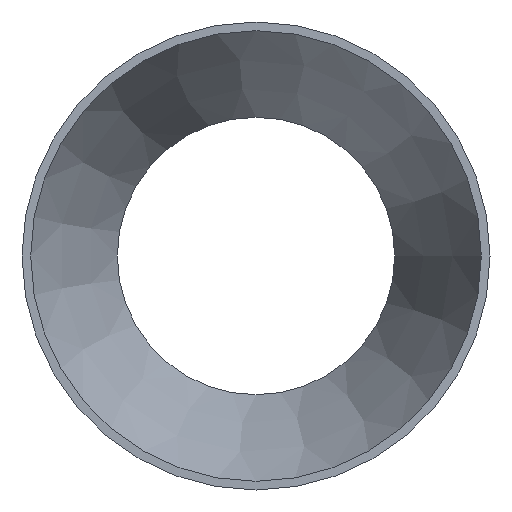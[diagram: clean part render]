
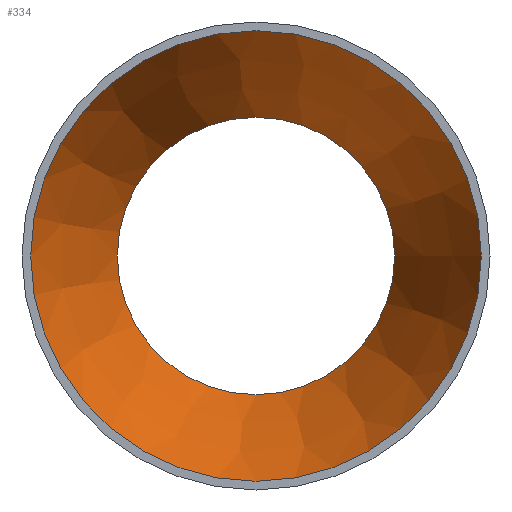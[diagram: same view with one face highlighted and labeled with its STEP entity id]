
A CAD part, left-side view. The second image highlights one B-rep face of the part: STEP entity #334.
In plain terms, the highlighted conical face has half-angle 22.307 degrees and reference radius 54.324 mm.
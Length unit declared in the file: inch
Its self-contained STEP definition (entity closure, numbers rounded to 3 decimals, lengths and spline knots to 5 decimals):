
#66=FACE_OUTER_BOUND('',#82,.T.);
#82=EDGE_LOOP('',(#235,#236,#237,#238,#239,#240));
#104=LINE('',#580,#114);
#114=VECTOR('',#447,2.13875);
#127=CIRCLE('',#375,1.63);
#128=CIRCLE('',#376,2.6475);
#129=CIRCLE('',#377,2.6475);
#130=CIRCLE('',#378,1.63);
#159=VERTEX_POINT('',#576);
#160=VERTEX_POINT('',#577);
#161=VERTEX_POINT('',#579);
#162=VERTEX_POINT('',#581);
#192=EDGE_CURVE('',#159,#160,#127,.T.);
#193=EDGE_CURVE('',#160,#161,#104,.T.);
#194=EDGE_CURVE('',#162,#161,#128,.T.);
#195=EDGE_CURVE('',#161,#162,#129,.T.);
#196=EDGE_CURVE('',#160,#159,#130,.T.);
#235=ORIENTED_EDGE('',*,*,#192,.T.);
#236=ORIENTED_EDGE('',*,*,#193,.T.);
#237=ORIENTED_EDGE('',*,*,#194,.F.);
#238=ORIENTED_EDGE('',*,*,#195,.F.);
#239=ORIENTED_EDGE('',*,*,#193,.F.);
#240=ORIENTED_EDGE('',*,*,#196,.T.);
#314=CONICAL_SURFACE('',#374,2.13875,0.389);
#334=ADVANCED_FACE('',(#66),#314,.F.);
#374=AXIS2_PLACEMENT_3D('',#575,#443,#444);
#375=AXIS2_PLACEMENT_3D('',#578,#445,#446);
#376=AXIS2_PLACEMENT_3D('',#582,#448,#449);
#377=AXIS2_PLACEMENT_3D('',#583,#450,#451);
#378=AXIS2_PLACEMENT_3D('',#584,#452,#453);
#443=DIRECTION('center_axis',(-1.,0.,0.));
#444=DIRECTION('ref_axis',(0.,1.,0.));
#445=DIRECTION('center_axis',(1.,0.,0.));
#446=DIRECTION('ref_axis',(0.,1.,0.));
#447=DIRECTION('',(-0.925,-0.38,0.));
#448=DIRECTION('center_axis',(1.,0.,0.));
#449=DIRECTION('ref_axis',(0.,1.,0.));
#450=DIRECTION('center_axis',(1.,0.,0.));
#451=DIRECTION('ref_axis',(0.,1.,0.));
#452=DIRECTION('center_axis',(1.,0.,0.));
#453=DIRECTION('ref_axis',(0.,1.,0.));
#575=CARTESIAN_POINT('Origin',(2.5,0.,0.));
#576=CARTESIAN_POINT('',(3.74,1.63,0.));
#577=CARTESIAN_POINT('',(3.74,-1.63,0.));
#578=CARTESIAN_POINT('Origin',(3.74,0.,0.));
#579=CARTESIAN_POINT('',(1.26,-2.6475,0.));
#580=CARTESIAN_POINT('',(2.5,-2.13875,0.));
#581=CARTESIAN_POINT('',(1.26,2.6475,0.));
#582=CARTESIAN_POINT('Origin',(1.26,0.,0.));
#583=CARTESIAN_POINT('Origin',(1.26,0.,0.));
#584=CARTESIAN_POINT('Origin',(3.74,0.,0.));
